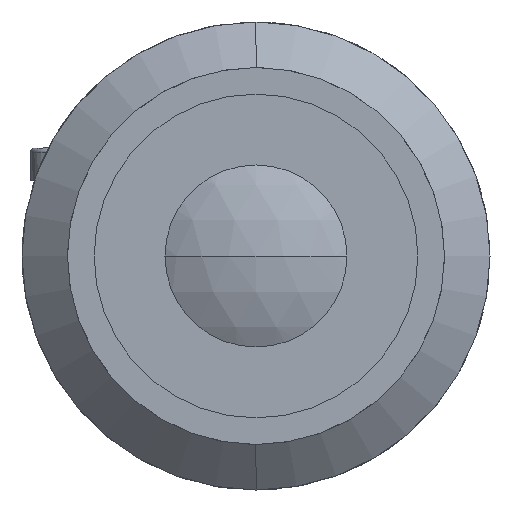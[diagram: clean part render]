
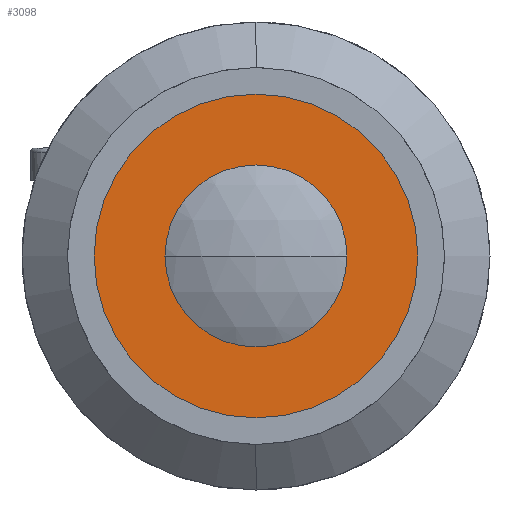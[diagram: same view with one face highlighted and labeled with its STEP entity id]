
A CAD part, left-side view. The second image highlights one B-rep face of the part: STEP entity #3098.
In plain terms, the highlighted planar face has unit normal (-1, 0, 0).
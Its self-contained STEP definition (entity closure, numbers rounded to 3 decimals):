
#25 = EDGE_CURVE ( 'NONE', #223, #312, #2428, .T. ) ;
#220 = DIRECTION ( 'NONE',  ( -1., 0., 0. ) ) ;
#223 = VERTEX_POINT ( 'NONE', #391 ) ;
#297 = CARTESIAN_POINT ( 'NONE',  ( 3.8, 13.5, 0. ) ) ;
#312 = VERTEX_POINT ( 'NONE', #3291 ) ;
#391 = CARTESIAN_POINT ( 'NONE',  ( 3.8, 0., 13.5 ) ) ;
#434 = EDGE_CURVE ( 'NONE', #2224, #2614, #1464, .T. ) ;
#459 = AXIS2_PLACEMENT_3D ( 'NONE', #297, #2854, #1162 ) ;
#696 = CIRCLE ( 'NONE', #1461, 13.5 ) ;
#853 = EDGE_CURVE ( 'NONE', #2614, #2224, #2661, .T. ) ;
#940 = EDGE_LOOP ( 'NONE', ( #3136, #1891 ) ) ;
#1069 = EDGE_CURVE ( 'NONE', #312, #223, #696, .T. ) ;
#1131 = CARTESIAN_POINT ( 'NONE',  ( 3.8, 0., -7. ) ) ;
#1162 = DIRECTION ( 'NONE',  ( 0., 0., -1. ) ) ;
#1163 = DIRECTION ( 'NONE',  ( -1., 0., 0. ) ) ;
#1181 = CARTESIAN_POINT ( 'NONE',  ( 3.8, 0., 0. ) ) ;
#1264 = EDGE_LOOP ( 'NONE', ( #2584, #3154 ) ) ;
#1440 = PLANE ( 'NONE',  #459 ) ;
#1461 = AXIS2_PLACEMENT_3D ( 'NONE', #1181, #3163, #1473 ) ;
#1464 = CIRCLE ( 'NONE', #2237, 7. ) ;
#1473 = DIRECTION ( 'NONE',  ( 0., 0., 1. ) ) ;
#1476 = CARTESIAN_POINT ( 'NONE',  ( 3.8, 0., 0. ) ) ;
#1542 = FACE_OUTER_BOUND ( 'NONE', #940, .T. ) ;
#1721 = AXIS2_PLACEMENT_3D ( 'NONE', #1476, #3459, #1766 ) ;
#1766 = DIRECTION ( 'NONE',  ( 0., 0., 1. ) ) ;
#1891 = ORIENTED_EDGE ( 'NONE', *, *, #1069, .T. ) ;
#1939 = CARTESIAN_POINT ( 'NONE',  ( 3.8, 0., 0. ) ) ;
#2218 = DIRECTION ( 'NONE',  ( 0., 0., 1. ) ) ;
#2224 = VERTEX_POINT ( 'NONE', #1131 ) ;
#2237 = AXIS2_PLACEMENT_3D ( 'NONE', #1939, #220, #2218 ) ;
#2282 = FACE_BOUND ( 'NONE', #1264, .T. ) ;
#2294 = CARTESIAN_POINT ( 'NONE',  ( 3.8, 0., 7. ) ) ;
#2428 = CIRCLE ( 'NONE', #3334, 13.5 ) ;
#2584 = ORIENTED_EDGE ( 'NONE', *, *, #853, .F. ) ;
#2614 = VERTEX_POINT ( 'NONE', #2294 ) ;
#2661 = CIRCLE ( 'NONE', #1721, 7. ) ;
#2854 = DIRECTION ( 'NONE',  ( 1., 0., 0. ) ) ;
#2855 = CARTESIAN_POINT ( 'NONE',  ( 3.8, 0., 0. ) ) ;
#3098 = ADVANCED_FACE ( 'NONE', ( #2282, #1542 ), #1440, .F. ) ;
#3136 = ORIENTED_EDGE ( 'NONE', *, *, #25, .T. ) ;
#3141 = DIRECTION ( 'NONE',  ( 0., 0., 1. ) ) ;
#3154 = ORIENTED_EDGE ( 'NONE', *, *, #434, .F. ) ;
#3163 = DIRECTION ( 'NONE',  ( -1., 0., 0. ) ) ;
#3291 = CARTESIAN_POINT ( 'NONE',  ( 3.8, 0., -13.5 ) ) ;
#3334 = AXIS2_PLACEMENT_3D ( 'NONE', #2855, #1163, #3141 ) ;
#3459 = DIRECTION ( 'NONE',  ( -1., 0., 0. ) ) ;
